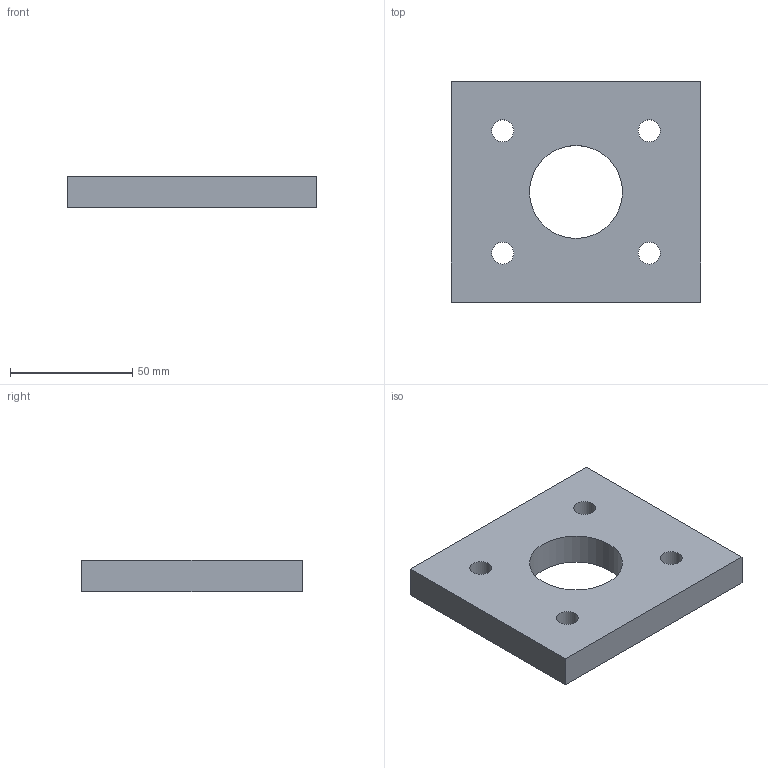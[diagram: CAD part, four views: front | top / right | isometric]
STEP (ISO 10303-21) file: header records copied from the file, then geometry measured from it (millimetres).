
FILE_DESCRIPTION(('Open CASCADE Model'),'2;1');
FILE_NAME('Open CASCADE Shape Model','2026-10-08T06:53:14',('Author'),( 'Open CASCADE'),'Open CASCADE STEP processor 7.8','Open CASCADE 7.8' ,'Unknown');
FILE_SCHEMA(('AUTOMOTIVE_DESIGN { 1 0 10303 214 1 1 1 1 }'));
Length unit declared in the file: millimetre
Products named in the file (1): Open CASCADE STEP translator 7.8 26
Bounding box: 102 x 90 x 13 mm (x, y, z)
Volume: 101288.4 mm3; surface area: 23597 mm2
Topology: 1 solids, 1 shells, 11 faces, 27 edges, 18 vertices
Faces by surface type: plane 6, cylinder 5
Full cylindrical faces by diameter (mm): 9 x4, 38 x1
Entity records: 742 total; most frequent: CARTESIAN_POINT 171, DIRECTION 105, LINE 61, VECTOR 61, ORIENTED_EDGE 54, PCURVE 54, DEFINITIONAL_REPRESENTATION 54, EDGE_CURVE 27
